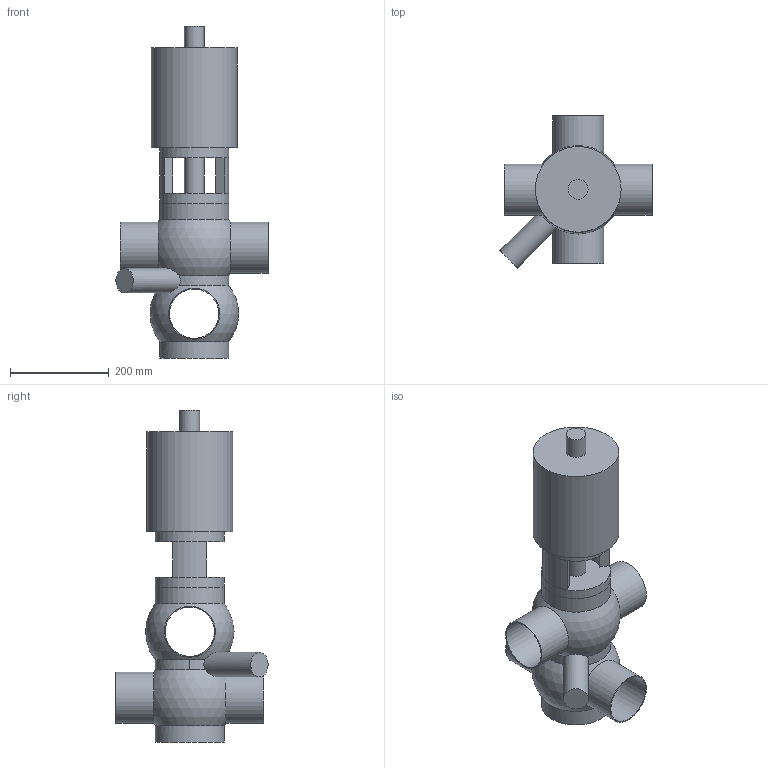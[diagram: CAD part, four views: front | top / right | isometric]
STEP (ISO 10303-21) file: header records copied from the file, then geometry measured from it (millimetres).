
FILE_DESCRIPTION(('FreeCAD Model'),'2;1');
FILE_NAME( '/home/martin/Documents/proyect/valves/stp/valve_TT_DN-100.step', '2018-01-12T21:42:06',('Author'),(''), 'Open CASCADE STEP processor 6.8','FreeCAD','Unknown');
FILE_SCHEMA(('AUTOMOTIVE_DESIGN_CC2 { 1 2 10303 214 -1 1 5 4 }'));
Length unit declared in the file: millimetre
Products named in the file (3): ASSEMBLY; valve_TT_DN-100-body; valve_TT_DN-100-head
Assembly tree (2 placements, depth 2):
  ASSEMBLY
    valve_TT_DN-100-body
    valve_TT_DN-100-head
Bounding box: 309.1 x 309.1 x 674 mm (x, y, z)
Volume: 8485229.9 mm3; surface area: 732974.1 mm2
Topology: 2 solids, 2 shells, 46 faces, 109 edges, 70 vertices
Faces by surface type: cylinder 24, plane 18, sphere 4
Full cylindrical faces by diameter (mm): 40 x2, 50 x1, 100 x5, 104 x4, 140 x4, 174 x1
Entity records: 5988 total; most frequent: CARTESIAN_POINT 3569, DIRECTION 417, ORIENTED_EDGE 214, PCURVE 214, DEFINITIONAL_REPRESENTATION 214, LINE 172, VECTOR 172, AXIS2_PLACEMENT_3D 107
